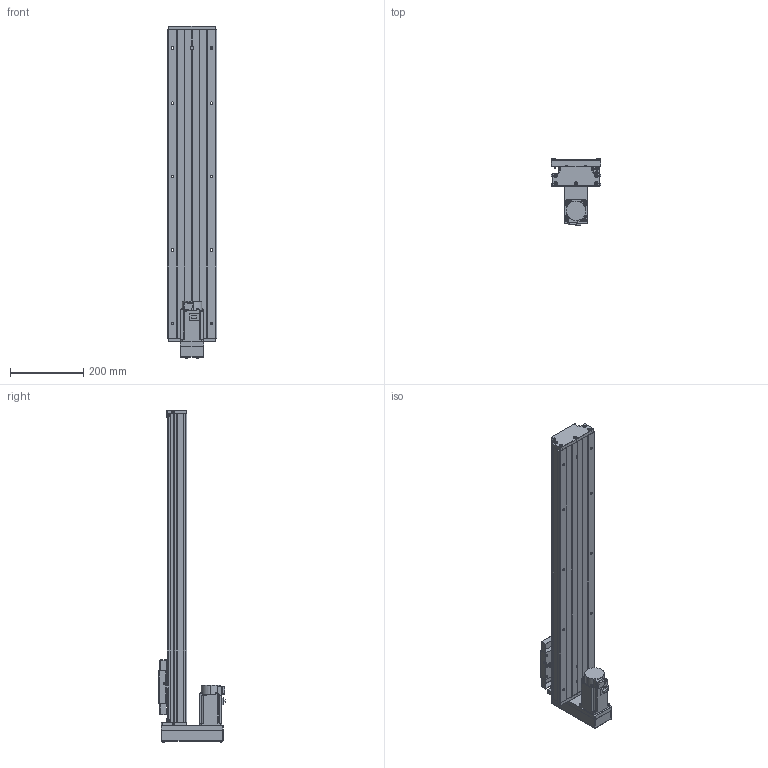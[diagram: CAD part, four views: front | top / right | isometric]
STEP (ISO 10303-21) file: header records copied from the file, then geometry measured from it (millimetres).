
FILE_DESCRIPTION (( 'STEP AP203' ), '1' );
FILE_NAME ('CTH130-650-BM-M40-C4.step', '2023-06-30T02:45:46', ( '微软用户' ), ( '微软中国' ), 'SwSTEP 2.0', 'SolidWorks 2020', '' );
FILE_SCHEMA (( 'CONFIG_CONTROL_DESIGN' ));
Length unit declared in the file: millimetre
Products named in the file (20): GB T308.1-2013-6.35; CTHA60-016; GBT 70.2-M4¡Á35_M4¡Á35; GTH14-004; GBT 70.1-M3℅5; GTH14-015-2_CTHA86-015-2; GTH14-005; GBT77-2000 M3×3; GTH14-033; GB1155-6X6; CTH130-031; CTH130-650-BM-M40-C4; GBT70.1 M5℅16; HG-KN43J-S100; GBT 70.2-M3¡Á5_M3¡Á6; GTH14-001_650; CTHA60-017; す晦芛蹟隊 M3℅5; CTH130-002_GTH14-002; EE_SX911P_R
Assembly tree (60 placements, depth 2):
  CTH130-650-BM-M40-C4
    GTH14-001_650
    CTH130-002_GTH14-002
    GB T308.1-2013-6.35  x2
    GTH14-004
    GTH14-005
    GB1155-6X6  x2
    GBT70.1 M5℅16  x10
    CTHA60-017  x3
    EE_SX911P_R  x3
    CTHA60-016  x2
    GBT 70.1-M3℅5  x6
    GBT77-2000 M3×3  x6
    CTH130-031
    GBT 70.2-M3¡Á5_M3¡Á6  x8
    す晦芛蹟隊 M3℅5  x6
    HG-KN43J-S100
    GBT 70.2-M4¡Á35_M4¡Á35  x4
    GTH14-015-2_CTHA86-015-2
    GTH14-033
Bounding box: 135 x 179.8 x 904.2 mm (x, y, z)
Volume: 4869469.8 mm3; surface area: 824918.8 mm2
Topology: 63 solids, 63 shells, 2435 faces, 5797 edges, 3585 vertices
Faces by surface type: plane 1310, cylinder 646, cone 299, torus 124, sphere 36, bspline 20
Entity records: 43924 total; most frequent: CARTESIAN_POINT 9847, DIRECTION 6402, ORIENTED_EDGE 6300, EDGE_CURVE 3150, AXIS2_PLACEMENT_3D 2184, VECTOR 2034, LINE 2034, VERTEX_POINT 1995
